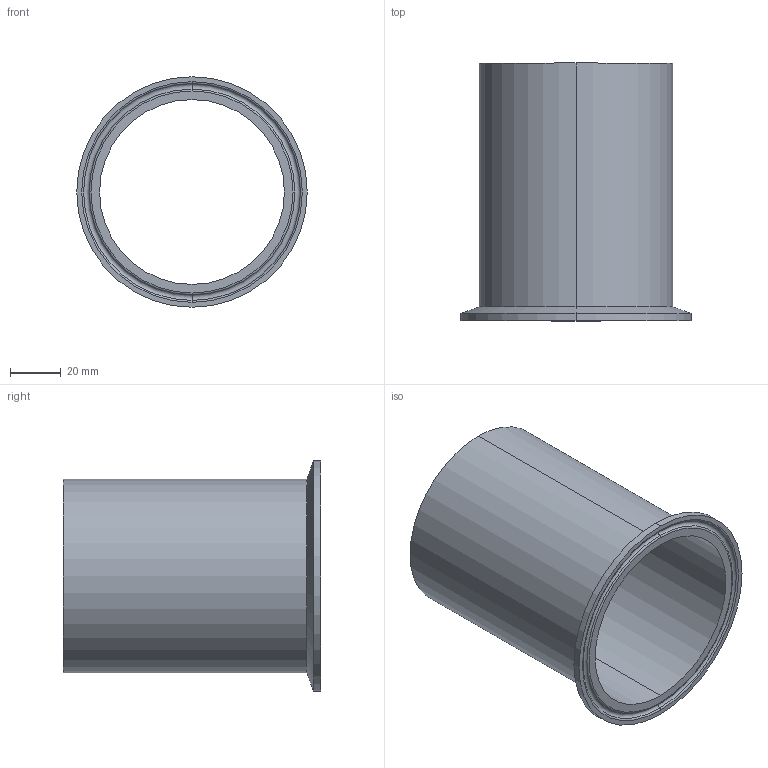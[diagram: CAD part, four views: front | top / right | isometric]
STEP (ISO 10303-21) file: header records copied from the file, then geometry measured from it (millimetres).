
FILE_DESCRIPTION (( 'STEP AP203' ), '1' );
FILE_NAME ('EG14WL3.0.STEP', '2018-05-01T13:43:24', ( 'vneprd' ), ( 'Microsoft' ), 'SwSTEP 2.0', 'SolidWorks 2014', '' );
FILE_SCHEMA (( 'CONFIG_CONTROL_DESIGN' ));
Length unit declared in the file: inch
Products named in the file (1): EG14WL3.0
Bounding box: 90.91 x 101.6 x 90.91 mm (x, y, z)
Volume: 46663.9 mm3; surface area: 52091.8 mm2
Topology: 1 solids, 1 shells, 17 faces, 34 edges, 20 vertices
Faces by surface type: cylinder 6, torus 6, plane 3, cone 2
Entity records: 533 total; most frequent: DIRECTION 96, CARTESIAN_POINT 72, ORIENTED_EDGE 68, AXIS2_PLACEMENT_3D 44, EDGE_CURVE 34, CIRCLE 26, EDGE_LOOP 20, VERTEX_POINT 20
